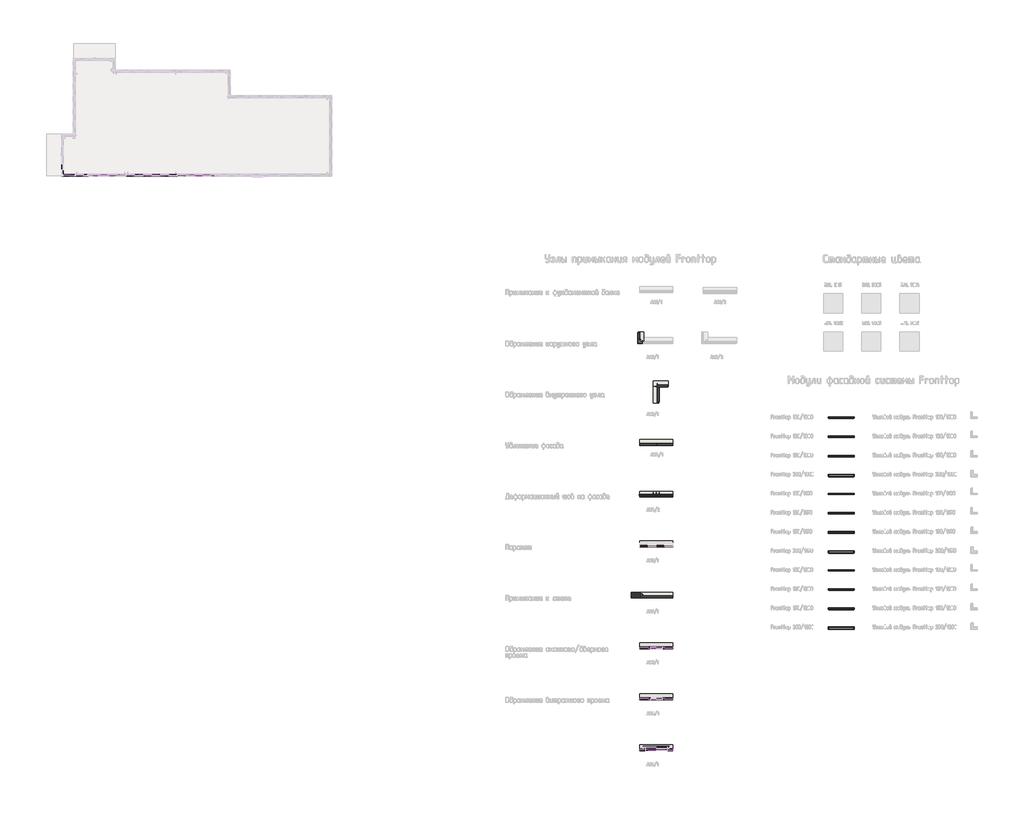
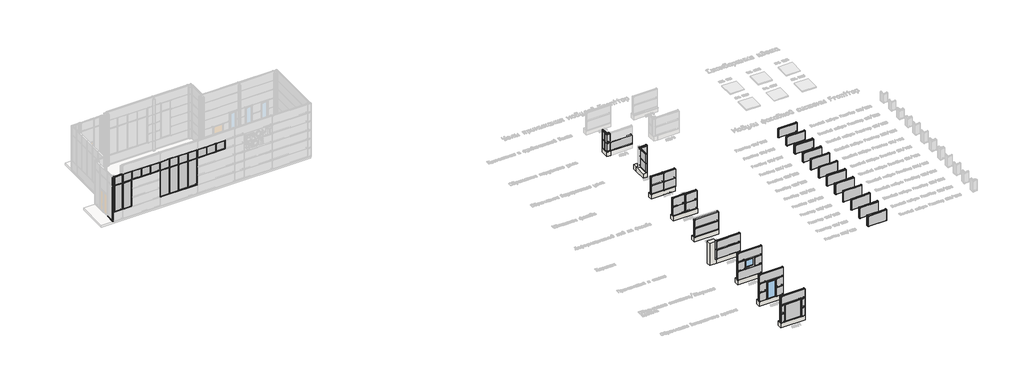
# One storey, part 1 of 37: 66 plates, 60 members, 12 walls, 2 windows.
"""IFC4 building model written with IfcOpenShell, lengths in millimetres."""

from ifc_helpers import new_model, si_unit, frame, origin, origin_with_axes, place, context, project, spatial, polyline, outline, extrude, faceted_brep, transform, mapped, element, save
from components import member_2e505431, member_19b48848, member_60ea8178, member_afb0b622, member_c640f651, member_1467ba8b, member_0bcd7f07, member_8788ed63, member_b6a986cb, member_9443a213, member_779ca808, member_ded9e280, member_bca74f28, member_2f80f005, member_458d3598, member_60e476da, plate_00605f7b, plate_8c76a23d, plate_b4692fb1, plate_fdef5a31, plate_b143e3d3, plate_4cc33baf, plate_adcc6613, plate_925b3bca, plate_a005b7e8, plate_e3ef1461, plate_74780102, plate_292bbd3f, plate_7855ccda, plate_8fcb3820, plate_eae69fd8, plate_19c01b39, plate_a95caa87, plate_48909ca9, plate_139f4f7c, plate_2fa59fed, plate_190e3803, plate_d80518ba, plate_c80f8a6c, plate_abd0d1aa, plate_e143cc12, plate_79874e8c, plate_6d30afa2, plate_62cb37a9, plate_d0c9d429, plate_90e80e06, plate_bd2da7d9, plate_29757197, plate_c9485209, plate_f993ad24, plate_2dff6574, plate_69a0faa1, plate_1ac65dce, window_734b0359, window_32849c04

model = new_model("IFC4")

# Units and contexts
model_context = context("Model", 3, world=origin())
ifc_project = project(units=[si_unit("LENGTHUNIT", "METRE", prefix="MILLI")], contexts=[model_context])

# Site, building, storey
site = spatial("IfcSite", under=ifc_project)
building = spatial("IfcBuilding", under=site)
storey = spatial("IfcBuildingStorey", under=building, Name="Этаж 01", Elevation=0.0)

# Members
placement = place(None, origin())
member_shape = member_2e505431(model_context)
element("IfcMember", 1, ObjectType="Прямоугольный импост : 50х100", at=placement, inside=storey, context=model_context, shape_type="MappedRepresentation", body=[
    mapped(member_shape, transform((9500.0, -100.0, 5025.0), x_axis=(0.0, 0.0, 1.0), y_axis=(0.0, 1.0, 0.0), z_axis=(-1.0, 0.0, 0.0))),
])
element("IfcMember", 2, ObjectType="Прямоугольный импост : 50х100", at=placement, inside=storey, context=model_context, shape_type="MappedRepresentation", body=[
    mapped(member_shape, transform((5500.0, -100.0, 5025.0), x_axis=(0.0, 0.0, 1.0), y_axis=(0.0, 1.0, 0.0), z_axis=(-1.0, 0.0, 0.0))),
])
element("IfcMember", 3, ObjectType="Прямоугольный импост : 50х100", at=placement, inside=storey, context=model_context, shape_type="MappedRepresentation", body=[
    mapped(member_shape, transform((1500.0, -100.0, 5025.0), x_axis=(0.0, 0.0, 1.0), y_axis=(0.0, 1.0, 0.0), z_axis=(-1.0, 0.0, 0.0))),
])
element("IfcMember", 4, ObjectType="Прямоугольный импост : 50х100", at=placement, inside=storey, context=model_context, shape_type="MappedRepresentation", body=[
    mapped(member_shape, transform((10500.0, -100.0, 4025.0), x_axis=(0.0, 0.0, -1.0), y_axis=(0.0, 1.0, 0.0), z_axis=(1.0, 0.0, 0.0))),
])
element("IfcMember", 5, ObjectType="Прямоугольный импост : 50х100", at=placement, inside=storey, context=model_context, shape_type="MappedRepresentation", body=[
    mapped(member_shape, transform((6500.0, -100.0, 1025.0), x_axis=(0.0, 0.0, -1.0), y_axis=(0.0, 1.0, 0.0), z_axis=(1.0, 0.0, 0.0))),
])
element("IfcMember", 6, ObjectType="Прямоугольный импост : 50х100", at=placement, inside=storey, context=model_context, shape_type="MappedRepresentation", body=[
    mapped(member_shape, transform((2500.0, -100.0, 4025.0), x_axis=(0.0, 0.0, -1.0), y_axis=(0.0, 1.0, 0.0), z_axis=(1.0, 0.0, 0.0))),
])
member_2_shape = member_19b48848(model_context)
element("IfcMember", 7, ObjectType="Прямоугольный импост : 50х100", at=placement, inside=storey, context=model_context, shape_type="MappedRepresentation", body=[
    mapped(member_2_shape, transform((5500.0, -100.0, 4025.0), x_axis=(-1.0, 0.0, 0.0), y_axis=(0.0, 1.0, 0.0), z_axis=(0.0, 0.0, -1.0))),
])
element("IfcMember", 8, ObjectType="Прямоугольный импост : 50х100", at=placement, inside=storey, context=model_context, shape_type="MappedRepresentation", body=[
    mapped(member_2_shape, transform((9500.0, -100.0, 4975.0), x_axis=(1.0, 0.0, 0.0), y_axis=(0.0, 1.0, 0.0), z_axis=(0.0, 0.0, 1.0))),
])
element("IfcMember", 9, ObjectType="Прямоугольный импост : 50х100", at=placement, inside=storey, context=model_context, shape_type="MappedRepresentation", body=[
    mapped(member_2_shape, transform((490.0, -150.0, 4975.0), x_axis=(0.0, -1.0, 0.0), y_axis=(1.0, 0.0, 0.0), z_axis=(0.0, 0.0, 1.0))),
])
element("IfcMember", 10, ObjectType="Прямоугольный импост : 50х100", at=placement, inside=storey, context=model_context, shape_type="MappedRepresentation", body=[
    mapped(member_2_shape, transform((1500.0, -100.0, 4975.0), x_axis=(1.0, 0.0, 0.0), y_axis=(0.0, 1.0, 0.0), z_axis=(0.0, 0.0, 1.0))),
])
member_3_shape = member_60ea8178(model_context)
element("IfcMember", 11, ObjectType="Прямоугольный импост : 50х100", at=placement, inside=storey, context=model_context, shape_type="MappedRepresentation", body=[
    mapped(member_3_shape, transform((590.0, -100.0, 4025.0), x_axis=(0.0, 0.0, 1.0), y_axis=(0.0, 1.0, 0.0), z_axis=(-1.0, 0.0, 0.0))),
])
member_4_shape = member_afb0b622(model_context)
element("IfcMember", 12, ObjectType="Прямоугольный импост : 50х100", at=placement, inside=storey, context=model_context, shape_type="MappedRepresentation", body=[
    mapped(member_4_shape, transform((1550.0, -100.0, 4025.0), x_axis=(0.0, 0.0, 1.0), y_axis=(0.0, 1.0, 0.0), z_axis=(-1.0, 0.0, 0.0))),
])
member_5_shape = member_c640f651(model_context)
element("IfcMember", 13, ObjectType="Прямоугольный импост : 50х100", at=placement, inside=storey, context=model_context, shape_type="MappedRepresentation", body=[
    mapped(member_5_shape, transform((11500.0, -100.0, 4075.0), x_axis=(-1.0, 0.0, 0.0), y_axis=(0.0, 1.0, 0.0), z_axis=(0.0, 0.0, -1.0))),
])
element("IfcMember", 14, ObjectType="Прямоугольный импост : 50х100", at=placement, inside=storey, context=model_context, shape_type="MappedRepresentation", body=[
    mapped(member_5_shape, transform((10500.0, -100.0, 4075.0), x_axis=(-1.0, 0.0, 0.0), y_axis=(0.0, 1.0, 0.0), z_axis=(0.0, 0.0, -1.0))),
])
element("IfcMember", 15, ObjectType="Прямоугольный импост : 50х100", at=placement, inside=storey, context=model_context, shape_type="MappedRepresentation", body=[
    mapped(member_5_shape, transform((4500.0, -100.0, 4075.0), x_axis=(-1.0, 0.0, 0.0), y_axis=(0.0, 1.0, 0.0), z_axis=(0.0, 0.0, -1.0))),
])
element("IfcMember", 16, ObjectType="Прямоугольный импост : 50х100", at=placement, inside=storey, context=model_context, shape_type="MappedRepresentation", body=[
    mapped(member_5_shape, transform((3500.0, -100.0, 4075.0), x_axis=(-1.0, 0.0, 0.0), y_axis=(0.0, 1.0, 0.0), z_axis=(0.0, 0.0, -1.0))),
])
element("IfcMember", 17, ObjectType="Прямоугольный импост : 50х100", at=placement, inside=storey, context=model_context, shape_type="MappedRepresentation", body=[
    mapped(member_5_shape, transform((2500.0, -100.0, 4075.0), x_axis=(-1.0, 0.0, 0.0), y_axis=(0.0, 1.0, 0.0), z_axis=(0.0, 0.0, -1.0))),
])
member_6_shape = member_1467ba8b(model_context)
element("IfcMember", 18, ObjectType="Прямоугольный импост : 50х100", at=placement, inside=storey, context=model_context, shape_type="MappedRepresentation", body=[
    mapped(member_6_shape, transform((11500.0, -100.0, 4025.0), x_axis=(0.0, 0.0, -1.0), y_axis=(0.0, 1.0, 0.0), z_axis=(1.0, 0.0, 0.0))),
])
element("IfcMember", 19, ObjectType="Прямоугольный импост : 50х100", at=placement, inside=storey, context=model_context, shape_type="MappedRepresentation", body=[
    mapped(member_6_shape, transform((8500.0, -100.0, 1025.0), x_axis=(0.0, 0.0, -1.0), y_axis=(0.0, 1.0, 0.0), z_axis=(1.0, 0.0, 0.0))),
])
element("IfcMember", 20, ObjectType="Прямоугольный импост : 50х100", at=placement, inside=storey, context=model_context, shape_type="MappedRepresentation", body=[
    mapped(member_6_shape, transform((7500.0, -100.0, 1025.0), x_axis=(0.0, 0.0, -1.0), y_axis=(0.0, 1.0, 0.0), z_axis=(1.0, 0.0, 0.0))),
])
element("IfcMember", 21, ObjectType="Прямоугольный импост : 50х100", at=placement, inside=storey, context=model_context, shape_type="MappedRepresentation", body=[
    mapped(member_6_shape, transform((4500.0, -100.0, 4025.0), x_axis=(0.0, 0.0, -1.0), y_axis=(0.0, 1.0, 0.0), z_axis=(1.0, 0.0, 0.0))),
])
element("IfcMember", 22, ObjectType="Прямоугольный импост : 50х100", at=placement, inside=storey, context=model_context, shape_type="MappedRepresentation", body=[
    mapped(member_6_shape, transform((3500.0, -100.0, 4025.0), x_axis=(0.0, 0.0, -1.0), y_axis=(0.0, 1.0, 0.0), z_axis=(1.0, 0.0, 0.0))),
])
element("IfcMember", 23, ObjectType="Прямоугольный импост : 50х100", at=placement, inside=storey, context=model_context, shape_type="MappedRepresentation", body=[
    mapped(member_6_shape, transform((10500.0, -100.0, 5025.0), x_axis=(0.0, 0.0, 1.0), y_axis=(0.0, 1.0, 0.0), z_axis=(-1.0, 0.0, 0.0))),
])
element("IfcMember", 24, ObjectType="Прямоугольный импост : 50х100", at=placement, inside=storey, context=model_context, shape_type="MappedRepresentation", body=[
    mapped(member_6_shape, transform((7500.0, -100.0, 5025.0), x_axis=(0.0, 0.0, 1.0), y_axis=(0.0, 1.0, 0.0), z_axis=(-1.0, 0.0, 0.0))),
])
element("IfcMember", 25, ObjectType="Прямоугольный импост : 50х100", at=placement, inside=storey, context=model_context, shape_type="MappedRepresentation", body=[
    mapped(member_6_shape, transform((6500.0, -100.0, 5025.0), x_axis=(0.0, 0.0, 1.0), y_axis=(0.0, 1.0, 0.0), z_axis=(-1.0, 0.0, 0.0))),
])
element("IfcMember", 26, ObjectType="Прямоугольный импост : 50х100", at=placement, inside=storey, context=model_context, shape_type="MappedRepresentation", body=[
    mapped(member_6_shape, transform((3500.0, -100.0, 5025.0), x_axis=(0.0, 0.0, 1.0), y_axis=(0.0, 1.0, 0.0), z_axis=(-1.0, 0.0, 0.0))),
])
element("IfcMember", 27, ObjectType="Прямоугольный импост : 50х100", at=placement, inside=storey, context=model_context, shape_type="MappedRepresentation", body=[
    mapped(member_6_shape, transform((2500.0, -100.0, 5025.0), x_axis=(0.0, 0.0, 1.0), y_axis=(0.0, 1.0, 0.0), z_axis=(-1.0, 0.0, 0.0))),
])
element("IfcMember", 28, ObjectType="Прямоугольный импост : 50х100", at=placement, inside=storey, context=model_context, shape_type="MappedRepresentation", body=[
    mapped(member_4_shape, transform((9500.0, -100.0, 4075.0), x_axis=(-1.0, 0.0, 0.0), y_axis=(0.0, 1.0, 0.0), z_axis=(0.0, 0.0, -1.0))),
])
element("IfcMember", 29, ObjectType="Прямоугольный импост : 50х100", at=placement, inside=storey, context=model_context, shape_type="MappedRepresentation", body=[
    mapped(member_4_shape, transform((1500.0, -100.0, 4075.0), x_axis=(-1.0, 0.0, 0.0), y_axis=(0.0, 1.0, 0.0), z_axis=(0.0, 0.0, -1.0))),
])
element("IfcMember", 30, ObjectType="Прямоугольный импост : 50х100", at=placement, inside=storey, context=model_context, shape_type="MappedRepresentation", body=[
    mapped(member_4_shape, transform((12500.0, -100.0, 4975.0), x_axis=(1.0, 0.0, 0.0), y_axis=(0.0, 1.0, 0.0), z_axis=(0.0, 0.0, 1.0))),
])
element("IfcMember", 31, ObjectType="Прямоугольный импост : 50х100", at=placement, inside=storey, context=model_context, shape_type="MappedRepresentation", body=[
    mapped(member_4_shape, transform((5500.0, -100.0, 4975.0), x_axis=(1.0, 0.0, 0.0), y_axis=(0.0, 1.0, 0.0), z_axis=(0.0, 0.0, 1.0))),
])
member_7_shape = member_0bcd7f07(model_context)
element("IfcMember", 32, ObjectType="Прямоугольный импост : 50х100", at=placement, inside=storey, context=model_context, shape_type="MappedRepresentation", body=[
    mapped(member_7_shape, transform((5500.0, -100.0, 1075.0), x_axis=(-1.0, 0.0, 0.0), y_axis=(0.0, 1.0, 0.0), z_axis=(0.0, 0.0, -1.0))),
])
element("IfcMember", 33, ObjectType="Прямоугольный импост : 50х100", at=placement, inside=storey, context=model_context, shape_type="MappedRepresentation", body=[
    mapped(member_7_shape, transform((540.0, -100.0, 1075.0), x_axis=(-1.0, 0.0, 0.0), y_axis=(0.0, 1.0, 0.0), z_axis=(0.0, 0.0, -1.0))),
])
element("IfcMember", 34, ObjectType="Прямоугольный импост : 50х100", at=placement, inside=storey, context=model_context, shape_type="MappedRepresentation", body=[
    mapped(member_7_shape, transform((9500.0, -100.0, 4025.0), x_axis=(1.0, 0.0, 0.0), y_axis=(0.0, 1.0, 0.0), z_axis=(0.0, 0.0, 1.0))),
])
element("IfcMember", 35, ObjectType="Прямоугольный импост : 50х100", at=placement, inside=storey, context=model_context, shape_type="MappedRepresentation", body=[
    mapped(member_4_shape, transform((490.0, -100.0, 25.0), x_axis=(0.0, 0.0, -1.0), y_axis=(1.0, 0.0, 0.0), z_axis=(0.0, -1.0, 0.0))),
])
member_8_shape = member_8788ed63(model_context)
element("IfcMember", 36, ObjectType="Прямоугольный импост : 50х100", at=placement, inside=storey, context=model_context, shape_type="MappedRepresentation", body=[
    mapped(member_8_shape, transform((590.0, -100.0, 5025.0), x_axis=(0.0, 0.0, 1.0), y_axis=(0.0, 1.0, 0.0), z_axis=(-1.0, 0.0, 0.0))),
])
element("IfcMember", 37, ObjectType="Прямоугольный импост : 50х100", at=placement, inside=storey, context=model_context, shape_type="MappedRepresentation", body=[
    mapped(member_8_shape, transform((1450.0, -100.0, 1025.0), x_axis=(0.0, 0.0, -1.0), y_axis=(0.0, 1.0, 0.0), z_axis=(1.0, 0.0, 0.0))),
])
element("IfcMember", 38, ObjectType="Прямоугольный импост : 50х100", at=placement, inside=storey, context=model_context, shape_type="MappedRepresentation", body=[
    mapped(member_6_shape, transform((540.0, -100.0, 4025.0), x_axis=(-1.0, 0.0, 0.0), y_axis=(0.0, 1.0, 0.0), z_axis=(0.0, 0.0, -1.0))),
])
member_9_shape = member_b6a986cb(model_context)
element("IfcMember", 39, ObjectType="Прямоугольный импост : 50х100", at=placement, inside=storey, context=model_context, shape_type="MappedRepresentation", body=[
    mapped(member_9_shape, transform((1500.0, -100.0, 4025.0), x_axis=(1.0, 0.0, 0.0), y_axis=(0.0, 1.0, 0.0), z_axis=(0.0, 0.0, 1.0))),
])
member_10_shape = member_9443a213(model_context)
element("IfcMember", 40, ObjectType="Прямоугольный импост : 50х100", at=placement, inside=storey, context=model_context, shape_type="MappedRepresentation", body=[
    mapped(member_10_shape, transform((490.0, -150.0, 4025.0), x_axis=(0.0, -1.0, 0.0), y_axis=(1.0, 0.0, 0.0), z_axis=(0.0, 0.0, 1.0))),
])
member_11_shape = member_779ca808(model_context)
element("IfcMember", 41, ObjectType="Прямоугольный импост : 50х100", at=placement, inside=storey, context=model_context, shape_type="MappedRepresentation", body=[
    mapped(member_11_shape, transform((490.0, -150.0, 2425.0), x_axis=(0.0, -1.0, 0.0), y_axis=(1.0, 0.0, 0.0), z_axis=(0.0, 0.0, 1.0))),
])
element("IfcMember", 42, ObjectType="Прямоугольный импост : 50х100", at=placement, inside=storey, context=model_context, shape_type="MappedRepresentation", body=[
    mapped(member_4_shape, transform((2450.0, -100.0, 1025.0), x_axis=(0.0, 0.0, -1.0), y_axis=(0.0, 1.0, 0.0), z_axis=(1.0, 0.0, 0.0))),
])
element("IfcMember", 43, ObjectType="Прямоугольный импост : 50х100", at=placement, inside=storey, context=model_context, shape_type="MappedRepresentation", body=[
    mapped(member_9_shape, transform((1500.0, -100.0, 1025.0), x_axis=(-1.0, 0.0, 0.0), y_axis=(0.0, 1.0, 0.0), z_axis=(0.0, 0.0, -1.0))),
])
element("IfcMember", 44, ObjectType="Прямоугольный импост : 50х100", at=placement, inside=storey, context=model_context, shape_type="MappedRepresentation", body=[
    mapped(member_9_shape, transform((2500.0, -100.0, 4025.0), x_axis=(1.0, 0.0, 0.0), y_axis=(0.0, 1.0, 0.0), z_axis=(0.0, 0.0, 1.0))),
])
member_12_shape = member_ded9e280(model_context)
element("IfcMember", 45, ObjectType="Прямоугольный импост : 50х100", at=placement, inside=storey, context=model_context, shape_type="MappedRepresentation", body=[
    mapped(member_12_shape, transform((8500.0, -100.0, 4025.0), x_axis=(0.0, 0.0, 1.0), y_axis=(0.0, 1.0, 0.0), z_axis=(-1.0, 0.0, 0.0))),
])
member_13_shape = member_bca74f28(model_context)
element("IfcMember", 46, ObjectType="Прямоугольный импост : 50х100", at=placement, inside=storey, context=model_context, shape_type="MappedRepresentation", body=[
    mapped(member_13_shape, transform((7500.0, -100.0, 4025.0), x_axis=(0.0, 0.0, 1.0), y_axis=(0.0, 1.0, 0.0), z_axis=(-1.0, 0.0, 0.0))),
])
element("IfcMember", 47, ObjectType="Прямоугольный импост : 50х100", at=placement, inside=storey, context=model_context, shape_type="MappedRepresentation", body=[
    mapped(member_13_shape, transform((6500.0, -100.0, 4025.0), x_axis=(0.0, 0.0, 1.0), y_axis=(0.0, 1.0, 0.0), z_axis=(-1.0, 0.0, 0.0))),
])
member_14_shape = member_2f80f005(model_context)
element("IfcMember", 48, ObjectType="Прямоугольный импост : 50х100", at=placement, inside=storey, context=model_context, shape_type="MappedRepresentation", body=[
    mapped(member_14_shape, transform((8500.0, -100.0, 1075.0), x_axis=(-1.0, 0.0, 0.0), y_axis=(0.0, 1.0, 0.0), z_axis=(0.0, 0.0, -1.0))),
])
element("IfcMember", 49, ObjectType="Прямоугольный импост : 50х100", at=placement, inside=storey, context=model_context, shape_type="MappedRepresentation", body=[
    mapped(member_14_shape, transform((7500.0, -100.0, 1075.0), x_axis=(-1.0, 0.0, 0.0), y_axis=(0.0, 1.0, 0.0), z_axis=(0.0, 0.0, -1.0))),
])
element("IfcMember", 50, ObjectType="Прямоугольный импост : 50х100", at=placement, inside=storey, context=model_context, shape_type="MappedRepresentation", body=[
    mapped(member_14_shape, transform((6500.0, -100.0, 1075.0), x_axis=(-1.0, 0.0, 0.0), y_axis=(0.0, 1.0, 0.0), z_axis=(0.0, 0.0, -1.0))),
])
member_15_shape = member_458d3598(model_context)
element("IfcMember", 51, ObjectType="Прямоугольный импост : 50х100", at=placement, inside=storey, context=model_context, shape_type="MappedRepresentation", body=[
    mapped(member_15_shape, transform((8500.0, -100.0, 4050.0), x_axis=(-1.0, 0.0, 0.0), y_axis=(0.0, 1.0, 0.0), z_axis=(0.0, 0.0, -1.0))),
])
element("IfcMember", 52, ObjectType="Прямоугольный импост : 50х100", at=placement, inside=storey, context=model_context, shape_type="MappedRepresentation", body=[
    mapped(member_15_shape, transform((7500.0, -100.0, 4050.0), x_axis=(-1.0, 0.0, 0.0), y_axis=(0.0, 1.0, 0.0), z_axis=(0.0, 0.0, -1.0))),
])
element("IfcMember", 53, ObjectType="Прямоугольный импост : 50х100", at=placement, inside=storey, context=model_context, shape_type="MappedRepresentation", body=[
    mapped(member_15_shape, transform((6500.0, -100.0, 4050.0), x_axis=(-1.0, 0.0, 0.0), y_axis=(0.0, 1.0, 0.0), z_axis=(0.0, 0.0, -1.0))),
])
element("IfcMember", 54, ObjectType="Прямоугольный импост : 50х100", at=placement, inside=storey, context=model_context, shape_type="MappedRepresentation", body=[
    mapped(member_12_shape, transform((5550.0, -100.0, 4025.0), x_axis=(0.0, 0.0, 1.0), y_axis=(0.0, 1.0, 0.0), z_axis=(-1.0, 0.0, 0.0))),
])
member_16_shape = member_60e476da(model_context)
element("IfcMember", 55, ObjectType="Прямоугольный импост : 50х100", at=placement, inside=storey, context=model_context, shape_type="MappedRepresentation", body=[
    mapped(member_16_shape, transform((11500.0, -100.0, 5025.0), x_axis=(0.0, 0.0, 1.0), y_axis=(0.0, 1.0, 0.0), z_axis=(-1.0, 0.0, 0.0))),
])
element("IfcMember", 56, ObjectType="Прямоугольный импост : 50х100", at=placement, inside=storey, context=model_context, shape_type="MappedRepresentation", body=[
    mapped(member_16_shape, transform((8500.0, -100.0, 5025.0), x_axis=(0.0, 0.0, 1.0), y_axis=(0.0, 1.0, 0.0), z_axis=(-1.0, 0.0, 0.0))),
])
element("IfcMember", 57, ObjectType="Прямоугольный импост : 50х100", at=placement, inside=storey, context=model_context, shape_type="MappedRepresentation", body=[
    mapped(member_16_shape, transform((4500.0, -100.0, 5025.0), x_axis=(0.0, 0.0, 1.0), y_axis=(0.0, 1.0, 0.0), z_axis=(-1.0, 0.0, 0.0))),
])
element("IfcMember", 58, ObjectType="Прямоугольный импост : 50х100", at=placement, inside=storey, context=model_context, shape_type="MappedRepresentation", body=[
    mapped(member_16_shape, transform((12500.0, -100.0, 4025.0), x_axis=(0.0, 0.0, -1.0), y_axis=(0.0, 1.0, 0.0), z_axis=(1.0, 0.0, 0.0))),
])
element("IfcMember", 59, ObjectType="Прямоугольный импост : 50х100", at=placement, inside=storey, context=model_context, shape_type="MappedRepresentation", body=[
    mapped(member_16_shape, transform((9500.0, -100.0, 1025.0), x_axis=(0.0, 0.0, -1.0), y_axis=(0.0, 1.0, 0.0), z_axis=(1.0, 0.0, 0.0))),
])
element("IfcMember", 60, ObjectType="Прямоугольный импост : 50х100", at=placement, inside=storey, context=model_context, shape_type="MappedRepresentation", body=[
    mapped(member_16_shape, transform((5500.0, -100.0, 4025.0), x_axis=(0.0, 0.0, -1.0), y_axis=(0.0, 1.0, 0.0), z_axis=(1.0, 0.0, 0.0))),
])

# Plates
plate_shape = plate_00605f7b(model_context)
element("IfcPlate", 61, ObjectType="Системная панель : ADSK_Cтеклопакет_25", at=placement, inside=storey, context=model_context, shape_type="MappedRepresentation", body=[
    mapped(plate_shape, transform((8987.5, -100.0, 4050.0), x_axis=(-1.0, 0.0, 0.0), y_axis=(0.0, -1.0, 0.0), z_axis=(0.0, 0.0, 1.0))),
])
element("IfcPlate", 62, ObjectType="Системная панель : ADSK_Cтеклопакет_25", at=placement, inside=storey, context=model_context, shape_type="MappedRepresentation", body=[
    mapped(plate_shape, transform((6012.5, -100.0, 4050.0), x_axis=(-1.0, 0.0, 0.0), y_axis=(0.0, -1.0, 0.0), z_axis=(0.0, 0.0, 1.0))),
])
plate_2_shape = plate_8c76a23d(model_context)
element("IfcPlate", 63, ObjectType="Системная панель : ADSK_Cтеклопакет_25", at=placement, inside=storey, context=model_context, shape_type="MappedRepresentation", body=[
    mapped(plate_2_shape, transform((8987.5, -100.0, 1075.0), x_axis=(-1.0, 0.0, 0.0), y_axis=(0.0, -1.0, 0.0), z_axis=(0.0, 0.0, 1.0))),
])
element("IfcPlate", 64, ObjectType="Системная панель : ADSK_Cтеклопакет_25", at=placement, inside=storey, context=model_context, shape_type="MappedRepresentation", body=[
    mapped(plate_2_shape, transform((6012.5, -100.0, 1075.0), x_axis=(-1.0, 0.0, 0.0), y_axis=(0.0, -1.0, 0.0), z_axis=(0.0, 0.0, 1.0))),
])
plate_3_shape = plate_b4692fb1(model_context)
element("IfcPlate", 65, ObjectType="Системная панель : ADSK_Cтеклопакет_25", at=placement, inside=storey, context=model_context, shape_type="MappedRepresentation", body=[
    mapped(plate_3_shape, transform((11987.5, -100.0, 4075.0), x_axis=(-1.0, 0.0, 0.0), y_axis=(0.0, -1.0, 0.0), z_axis=(0.0, 0.0, 1.0))),
])
element("IfcPlate", 66, ObjectType="Системная панель : ADSK_Cтеклопакет_25", at=placement, inside=storey, context=model_context, shape_type="MappedRepresentation", body=[
    mapped(plate_3_shape, transform((4987.5, -100.0, 4075.0), x_axis=(-1.0, 0.0, 0.0), y_axis=(0.0, -1.0, 0.0), z_axis=(0.0, 0.0, 1.0))),
])
element("IfcPlate", 67, ObjectType="Системная панель : ADSK_Cтеклопакет_25", at=placement, inside=storey, context=model_context, shape_type="MappedRepresentation", body=[
    mapped(plate_3_shape, transform((10012.5, -100.0, 4075.0), x_axis=(-1.0, 0.0, 0.0), y_axis=(0.0, -1.0, 0.0), z_axis=(0.0, 0.0, 1.0))),
])
element("IfcPlate", 68, ObjectType="Системная панель : ADSK_Cтеклопакет_25", at=placement, inside=storey, context=model_context, shape_type="MappedRepresentation", body=[
    mapped(plate_3_shape, transform((2012.5, -100.0, 4075.0), x_axis=(-1.0, 0.0, 0.0), y_axis=(0.0, -1.0, 0.0), z_axis=(0.0, 0.0, 1.0))),
])
plate_4_shape = plate_fdef5a31(model_context)
element("IfcPlate", 69, ObjectType="Системная панель : ADSK_Cтеклопакет_25", at=placement, inside=storey, context=model_context, shape_type="MappedRepresentation", body=[
    mapped(plate_4_shape, transform((11000.0, -100.0, 4075.0), x_axis=(-1.0, 0.0, 0.0), y_axis=(0.0, -1.0, 0.0), z_axis=(0.0, 0.0, 1.0))),
])
element("IfcPlate", 70, ObjectType="Системная панель : ADSK_Cтеклопакет_25", at=placement, inside=storey, context=model_context, shape_type="MappedRepresentation", body=[
    mapped(plate_4_shape, transform((4000.0, -100.0, 4075.0), x_axis=(-1.0, 0.0, 0.0), y_axis=(0.0, -1.0, 0.0), z_axis=(0.0, 0.0, 1.0))),
])
element("IfcPlate", 71, ObjectType="Системная панель : ADSK_Cтеклопакет_25", at=placement, inside=storey, context=model_context, shape_type="MappedRepresentation", body=[
    mapped(plate_4_shape, transform((3000.0, -100.0, 4075.0), x_axis=(-1.0, 0.0, 0.0), y_axis=(0.0, -1.0, 0.0), z_axis=(0.0, 0.0, 1.0))),
])
plate_5_shape = plate_b143e3d3(model_context)
element("IfcPlate", 72, ObjectType="Системная панель : ADSK_Cтеклопакет_25", at=placement, inside=storey, context=model_context, shape_type="MappedRepresentation", body=[
    mapped(plate_5_shape, transform((8000.0, -100.0, 1075.0), x_axis=(-1.0, 0.0, 0.0), y_axis=(0.0, -1.0, 0.0), z_axis=(0.0, 0.0, 1.0))),
])
element("IfcPlate", 73, ObjectType="Системная панель : ADSK_Cтеклопакет_25", at=placement, inside=storey, context=model_context, shape_type="MappedRepresentation", body=[
    mapped(plate_5_shape, transform((7000.0, -100.0, 1075.0), x_axis=(-1.0, 0.0, 0.0), y_axis=(0.0, -1.0, 0.0), z_axis=(0.0, 0.0, 1.0))),
])
plate_6_shape = plate_4cc33baf(model_context)
element("IfcPlate", 74, ObjectType="Системная панель : ADSK_Cтеклопакет_25", at=placement, inside=storey, context=model_context, shape_type="MappedRepresentation", body=[
    mapped(plate_6_shape, transform((8000.0, -100.0, 4050.0), x_axis=(-1.0, 0.0, 0.0), y_axis=(0.0, -1.0, 0.0), z_axis=(0.0, 0.0, 1.0))),
])
element("IfcPlate", 75, ObjectType="Системная панель : ADSK_Cтеклопакет_25", at=placement, inside=storey, context=model_context, shape_type="MappedRepresentation", body=[
    mapped(plate_6_shape, transform((7000.0, -100.0, 4050.0), x_axis=(-1.0, 0.0, 0.0), y_axis=(0.0, -1.0, 0.0), z_axis=(0.0, 0.0, 1.0))),
])
plate_7_shape = plate_adcc6613(model_context)
element("IfcPlate", 76, ObjectType="Системная панель : ADSK_Cтеклопакет_25", at=placement, inside=storey, context=model_context, shape_type="MappedRepresentation", body=[
    mapped(plate_7_shape, transform((1020.0, -100.0, 1075.0), x_axis=(-1.0, 0.0, 0.0), y_axis=(0.0, -1.0, 0.0), z_axis=(0.0, 0.0, 1.0))),
])
plate_8_shape = plate_925b3bca(model_context)
element("IfcPlate", 77, ObjectType="Системная панель : ADSK_Cтеклопакет_25", at=placement, inside=storey, context=model_context, shape_type="MappedRepresentation", body=[
    mapped(plate_8_shape, transform((2000.0, -100.0, 1075.0), x_axis=(-1.0, 0.0, 0.0), y_axis=(0.0, -1.0, 0.0), z_axis=(0.0, 0.0, 1.0))),
])
plate_9_shape = plate_a005b7e8(model_context)
element("IfcPlate", 78, ObjectType="Системная панель : ADSK_Cтеклопакет_25", at=placement, inside=storey, context=model_context, shape_type="MappedRepresentation", body=[
    mapped(plate_9_shape, transform((1020.0, -100.0, 4050.0), x_axis=(-1.0, 0.0, 0.0), y_axis=(0.0, -1.0, 0.0), z_axis=(0.0, 0.0, 1.0))),
])
plate_10_shape = plate_e3ef1461(model_context)
element("IfcPlate", 79, ObjectType="Пустая системная панель : Пустая системная панель", at=placement, inside=storey, context=model_context, shape_type="MappedRepresentation", body=[
    mapped(plate_10_shape, transform((47123.7069431, -45160.1316508, 25.0), x_axis=(-1.0, 0.0, 0.0), y_axis=(0.0, -1.0, 0.0), z_axis=(0.0, 0.0, 1.0))),
])
plate_11_shape = plate_74780102(model_context)
element("IfcPlate", 80, ObjectType="Fronttop : Fronttop 150/1000", at=placement, inside=storey, context=model_context, shape_type="MappedRepresentation", body=[
    mapped(plate_11_shape, transform((47123.7069431, -29160.1316508, 25.0), x_axis=(-1.0, 0.0, 0.0), y_axis=(0.0, -1.0, 0.0), z_axis=(0.0, 0.0, 1.0))),
])
element("IfcPlate", 81, ObjectType="Fronttop : Fronttop 150/1000", at=placement, inside=storey, context=model_context, shape_type="MappedRepresentation", body=[
    mapped(plate_11_shape, transform((47123.7069431, -29160.1316508, 1025.0), x_axis=(-1.0, 0.0, 0.0), y_axis=(0.0, -1.0, 0.0), z_axis=(0.0, 0.0, 1.0))),
])
plate_12_shape = plate_292bbd3f(model_context)
element("IfcPlate", 82, ObjectType="Fronttop : Fronttop 150/1000", at=placement, inside=storey, context=model_context, shape_type="MappedRepresentation", body=[
    mapped(plate_12_shape, transform((46443.8164092, -25160.1316508, 48.0), x_axis=(-1.0, 0.0, 0.0), y_axis=(0.0, -1.0, 0.0), z_axis=(0.0, 0.0, 1.0))),
])
element("IfcPlate", 83, ObjectType="Fronttop : Fronttop 150/1000", at=placement, inside=storey, context=model_context, shape_type="MappedRepresentation", body=[
    mapped(plate_12_shape, transform((46443.8164092, -25160.1316508, 1048.0), x_axis=(-1.0, 0.0, 0.0), y_axis=(0.0, -1.0, 0.0), z_axis=(0.0, 0.0, 1.0))),
])
plate_13_shape = plate_7855ccda(model_context)
element("IfcPlate", 84, ObjectType="Fronttop : Fronttop 150/1000", at=placement, inside=storey, context=model_context, shape_type="MappedRepresentation", body=[
    mapped(plate_13_shape, transform((47791.3164092, -25160.1316508, 48.0), x_axis=(-1.0, 0.0, 0.0), y_axis=(0.0, -1.0, 0.0), z_axis=(0.0, 0.0, 1.0))),
])
element("IfcPlate", 85, ObjectType="Fronttop : Fronttop 150/1000", at=placement, inside=storey, context=model_context, shape_type="MappedRepresentation", body=[
    mapped(plate_13_shape, transform((47791.3164092, -25160.1316508, 1048.0), x_axis=(-1.0, 0.0, 0.0), y_axis=(0.0, -1.0, 0.0), z_axis=(0.0, 0.0, 1.0))),
])
plate_14_shape = plate_8fcb3820(model_context)
element("IfcPlate", 86, ObjectType="Fronttop : Fronttop 150/1000", at=placement, inside=storey, context=model_context, shape_type="MappedRepresentation", body=[
    mapped(plate_14_shape, transform((47141.2069431, -33160.1316508, 25.0), x_axis=(-1.0, 0.0, 0.0), y_axis=(0.0, -1.0, 0.0), z_axis=(0.0, 0.0, 1.0))),
])
element("IfcPlate", 87, ObjectType="Fronttop : Fronttop 150/1000", at=placement, inside=storey, context=model_context, shape_type="MappedRepresentation", body=[
    mapped(plate_14_shape, transform((47141.2069431, -33160.1316508, 1025.0), x_axis=(-1.0, 0.0, 0.0), y_axis=(0.0, -1.0, 0.0), z_axis=(0.0, 0.0, 1.0))),
])
plate_15_shape = plate_eae69fd8(model_context)
element("IfcPlate", 88, ObjectType="Fronttop : Fronttop 150/1000", at=placement, inside=storey, context=model_context, shape_type="MappedRepresentation", body=[
    mapped(plate_15_shape, transform((47185.2069431, -17335.6316508, 25.0), x_axis=(0.0, -1.0, 0.0), y_axis=(1.0, 0.0, 0.0), z_axis=(0.0, 0.0, 1.0))),
])
element("IfcPlate", 89, ObjectType="Fronttop : Fronttop 150/1000", at=placement, inside=storey, context=model_context, shape_type="MappedRepresentation", body=[
    mapped(plate_15_shape, transform((47185.2069431, -17335.6316508, 1025.0), x_axis=(0.0, -1.0, 0.0), y_axis=(1.0, 0.0, 0.0), z_axis=(0.0, 0.0, 1.0))),
])
plate_16_shape = plate_19c01b39(model_context)
element("IfcPlate", 90, ObjectType="Fronttop : Fronttop 150/1000", at=placement, inside=storey, context=model_context, shape_type="MappedRepresentation", body=[
    mapped(plate_16_shape, transform((47615.2069431, -16570.1316508, 25.0), x_axis=(-1.0, 0.0, 0.0), y_axis=(0.0, -1.0, 0.0), z_axis=(0.0, 0.0, 1.0))),
])
element("IfcPlate", 91, ObjectType="Fronttop : Fronttop 150/1000", at=placement, inside=storey, context=model_context, shape_type="MappedRepresentation", body=[
    mapped(plate_16_shape, transform((47615.2069431, -16570.1316508, 1025.0), x_axis=(-1.0, 0.0, 0.0), y_axis=(0.0, -1.0, 0.0), z_axis=(0.0, 0.0, 1.0))),
])
element("IfcPlate", 92, ObjectType="Fronttop : Fronttop 150/1000", at=placement, inside=storey, context=model_context, shape_type="MappedRepresentation", body=[
    mapped(plate_11_shape, transform((47123.7069431, -37160.1316508, 25.0), x_axis=(-1.0, 0.0, 0.0), y_axis=(0.0, -1.0, 0.0), z_axis=(0.0, 0.0, 1.0))),
])
element("IfcPlate", 93, ObjectType="Fronttop : Fronttop 150/1000", at=placement, inside=storey, context=model_context, shape_type="MappedRepresentation", body=[
    mapped(plate_11_shape, transform((47123.7069431, -37160.1316508, 2025.0), x_axis=(-1.0, 0.0, 0.0), y_axis=(0.0, -1.0, 0.0), z_axis=(0.0, 0.0, 1.0))),
])
element("IfcPlate", 94, ObjectType="Fronttop : Fronttop 150/1000", at=placement, inside=storey, context=model_context, shape_type="MappedRepresentation", body=[
    mapped(plate_11_shape, transform((47123.7069431, -41160.1316508, 2025.0), x_axis=(-1.0, 0.0, 0.0), y_axis=(0.0, -1.0, 0.0), z_axis=(0.0, 0.0, 1.0))),
])
plate_17_shape = plate_a95caa87(model_context)
element("IfcPlate", 95, ObjectType="Fronttop : Fronttop 150/1000", at=placement, inside=storey, context=model_context, shape_type="MappedRepresentation", body=[
    mapped(plate_17_shape, transform((48023.7069431, -37160.1316508, 1025.0), x_axis=(-1.0, 0.0, 0.0), y_axis=(0.0, -1.0, 0.0), z_axis=(0.0, 0.0, 1.0))),
])
element("IfcPlate", 96, ObjectType="Fronttop : Fronttop 150/1000", at=placement, inside=storey, context=model_context, shape_type="MappedRepresentation", body=[
    mapped(plate_17_shape, transform((48023.7069431, -41160.1316508, 25.0), x_axis=(-1.0, 0.0, 0.0), y_axis=(0.0, -1.0, 0.0), z_axis=(0.0, 0.0, 1.0))),
])
element("IfcPlate", 97, ObjectType="Fronttop : Fronttop 150/1000", at=placement, inside=storey, context=model_context, shape_type="MappedRepresentation", body=[
    mapped(plate_17_shape, transform((48023.7069431, -41160.1316508, 1025.0), x_axis=(-1.0, 0.0, 0.0), y_axis=(0.0, -1.0, 0.0), z_axis=(0.0, 0.0, 1.0))),
])
plate_18_shape = plate_48909ca9(model_context)
element("IfcPlate", 98, ObjectType="Fronttop : Fronttop 150/1000", at=placement, inside=storey, context=model_context, shape_type="MappedRepresentation", body=[
    mapped(plate_18_shape, transform((46223.7069431, -37160.1316508, 1025.0), x_axis=(-1.0, 0.0, 0.0), y_axis=(0.0, -1.0, 0.0), z_axis=(0.0, 0.0, 1.0))),
])
element("IfcPlate", 99, ObjectType="Fronttop : Fronttop 150/1000", at=placement, inside=storey, context=model_context, shape_type="MappedRepresentation", body=[
    mapped(plate_18_shape, transform((46223.7069431, -41160.1316508, 25.0), x_axis=(-1.0, 0.0, 0.0), y_axis=(0.0, -1.0, 0.0), z_axis=(0.0, 0.0, 1.0))),
])
element("IfcPlate", 100, ObjectType="Fronttop : Fronttop 150/1000", at=placement, inside=storey, context=model_context, shape_type="MappedRepresentation", body=[
    mapped(plate_18_shape, transform((46223.7069431, -41160.1316508, 1025.0), x_axis=(-1.0, 0.0, 0.0), y_axis=(0.0, -1.0, 0.0), z_axis=(0.0, 0.0, 1.0))),
])
plate_19_shape = plate_139f4f7c(model_context)
element("IfcPlate", 101, ObjectType="Fronttop : Fronttop 150/1000", at=placement, inside=storey, context=model_context, shape_type="MappedRepresentation", body=[
    mapped(plate_19_shape, transform((48223.7069431, -45160.1316508, 25.0), x_axis=(-1.0, 0.0, 0.0), y_axis=(0.0, -1.0, 0.0), z_axis=(0.0, 0.0, 1.0))),
])
element("IfcPlate", 102, ObjectType="Fronttop : Fronttop 150/1000", at=placement, inside=storey, context=model_context, shape_type="MappedRepresentation", body=[
    mapped(plate_19_shape, transform((48223.7069431, -45160.1316508, 1025.0), x_axis=(-1.0, 0.0, 0.0), y_axis=(0.0, -1.0, 0.0), z_axis=(0.0, 0.0, 1.0))),
])
element("IfcPlate", 103, ObjectType="Fronttop : Fronttop 150/1000", at=placement, inside=storey, context=model_context, shape_type="MappedRepresentation", body=[
    mapped(plate_11_shape, transform((47123.7069431, -45160.1316508, 2025.0), x_axis=(-1.0, 0.0, 0.0), y_axis=(0.0, -1.0, 0.0), z_axis=(0.0, 0.0, 1.0))),
])
plate_20_shape = plate_2fa59fed(model_context)
element("IfcPlate", 104, ObjectType="Fronttop : Fronttop 150/1000", at=placement, inside=storey, context=model_context, shape_type="MappedRepresentation", body=[
    mapped(plate_20_shape, transform((46023.7069431, -45160.1316508, 25.0), x_axis=(-1.0, 0.0, 0.0), y_axis=(0.0, -1.0, 0.0), z_axis=(0.0, 0.0, 1.0))),
])
element("IfcPlate", 105, ObjectType="Fronttop : Fronttop 150/1000", at=placement, inside=storey, context=model_context, shape_type="MappedRepresentation", body=[
    mapped(plate_20_shape, transform((46023.7069431, -45160.1316508, 1025.0), x_axis=(-1.0, 0.0, 0.0), y_axis=(0.0, -1.0, 0.0), z_axis=(0.0, 0.0, 1.0))),
])
plate_21_shape = plate_190e3803(model_context)
element("IfcPlate", 106, ObjectType="Fronttop : Fronttop 150/1000", at=placement, inside=storey, context=model_context, shape_type="MappedRepresentation", body=[
    mapped(plate_21_shape, transform((47233.7069431, -13160.1316508, 25.0), x_axis=(-1.0, 0.0, 0.0), y_axis=(0.0, -1.0, 0.0), z_axis=(0.0, 0.0, 1.0))),
])
plate_22_shape = plate_d80518ba(model_context)
element("IfcPlate", 107, ObjectType="Fronttop : Fronttop 150/1000", at=placement, inside=storey, context=model_context, shape_type="MappedRepresentation", body=[
    mapped(plate_22_shape, transform((45823.7069431, -12695.1316508, 25.0), x_axis=(0.0, 1.0, 0.0), y_axis=(-1.0, 0.0, 0.0), z_axis=(0.0, 0.0, 1.0))),
])
element("IfcPlate", 108, ObjectType="Fronttop : Fronttop 150/1000", at=placement, inside=storey, context=model_context, shape_type="MappedRepresentation", body=[
    mapped(plate_22_shape, transform((45823.7069431, -12695.1316508, 1025.0), x_axis=(0.0, 1.0, 0.0), y_axis=(-1.0, 0.0, 0.0), z_axis=(0.0, 0.0, 1.0))),
])
plate_23_shape = plate_c80f8a6c(model_context)
element("IfcPlate", 109, ObjectType="Fronttop : Fronttop 150/1000", at=placement, inside=storey, context=model_context, shape_type="MappedRepresentation", body=[
    mapped(plate_23_shape, transform((47773.7069431, -21160.1316508, 25.0), x_axis=(-1.0, 0.0, 0.0), y_axis=(0.0, -1.0, 0.0), z_axis=(0.0, 0.0, 1.0))),
])
element("IfcPlate", 110, ObjectType="Fronttop : Fronttop 150/1000", at=placement, inside=storey, context=model_context, shape_type="MappedRepresentation", body=[
    mapped(plate_23_shape, transform((47773.7069431, -21160.1316508, 1025.0), x_axis=(-1.0, 0.0, 0.0), y_axis=(0.0, -1.0, 0.0), z_axis=(0.0, 0.0, 1.0))),
])
element("IfcPlate", 111, ObjectType="Fronttop : Fronttop 150/1000", at=placement, inside=storey, context=model_context, shape_type="MappedRepresentation", body=[
    mapped(plate_23_shape, transform((46473.7069431, -21160.1316508, 25.0), x_axis=(-1.0, 0.0, 0.0), y_axis=(0.0, -1.0, 0.0), z_axis=(0.0, 0.0, 1.0))),
])
element("IfcPlate", 112, ObjectType="Fronttop : Fronttop 150/1000", at=placement, inside=storey, context=model_context, shape_type="MappedRepresentation", body=[
    mapped(plate_23_shape, transform((46473.7069431, -21160.1316508, 1025.0), x_axis=(-1.0, 0.0, 0.0), y_axis=(0.0, -1.0, 0.0), z_axis=(0.0, 0.0, 1.0))),
])
plate_24_shape = plate_abd0d1aa(model_context)
element("IfcPlate", 113, ObjectType="Fronttop : Fronttop 100/1000", at=placement, inside=storey, context=model_context, shape_type="MappedRepresentation", body=[
    mapped(plate_24_shape, transform((61643.9226305, -19092.0996664, 0.0), x_axis=(1.0, 0.0, 0.0), y_axis=(0.0, 1.0, 0.0), z_axis=(0.0, 0.0, 1.0))),
])
plate_25_shape = plate_e143cc12(model_context)
element("IfcPlate", 114, ObjectType="Fronttop : Fronttop 100/1190", at=placement, inside=storey, context=model_context, shape_type="MappedRepresentation", body=[
    mapped(plate_25_shape, transform((61643.9226305, -25092.0996664, 0.0), x_axis=(1.0, 0.0, 0.0), y_axis=(0.0, 1.0, 0.0), z_axis=(0.0, 0.0, 1.0))),
])
plate_26_shape = plate_79874e8c(model_context)
element("IfcPlate", 115, ObjectType="Fronttop : Fronttop 100/1200", at=placement, inside=storey, context=model_context, shape_type="MappedRepresentation", body=[
    mapped(plate_26_shape, transform((61643.9226305, -31092.0996664, 0.0), x_axis=(1.0, 0.0, 0.0), y_axis=(0.0, 1.0, 0.0), z_axis=(0.0, 0.0, 1.0))),
])
plate_27_shape = plate_6d30afa2(model_context)
element("IfcPlate", 116, ObjectType="Fronttop : Fronttop 120/1000", at=placement, inside=storey, context=model_context, shape_type="MappedRepresentation", body=[
    mapped(plate_27_shape, transform((61643.9226305, -20592.0996664, 0.0), x_axis=(1.0, 0.0, 0.0), y_axis=(0.0, 1.0, 0.0), z_axis=(0.0, 0.0, 1.0))),
])
plate_28_shape = plate_62cb37a9(model_context)
element("IfcPlate", 117, ObjectType="Fronttop : Fronttop 120/1190", at=placement, inside=storey, context=model_context, shape_type="MappedRepresentation", body=[
    mapped(plate_28_shape, transform((61643.9226305, -26592.0996664, 0.0), x_axis=(1.0, 0.0, 0.0), y_axis=(0.0, 1.0, 0.0), z_axis=(0.0, 0.0, 1.0))),
])
plate_29_shape = plate_d0c9d429(model_context)
element("IfcPlate", 118, ObjectType="Fronttop : Fronttop 120/1200", at=placement, inside=storey, context=model_context, shape_type="MappedRepresentation", body=[
    mapped(plate_29_shape, transform((61643.9226305, -32592.0996664, 0.0), x_axis=(1.0, 0.0, 0.0), y_axis=(0.0, 1.0, 0.0), z_axis=(0.0, 0.0, 1.0))),
])
plate_30_shape = plate_90e80e06(model_context)
element("IfcPlate", 119, ObjectType="Fronttop : Fronttop 150/1000", at=placement, inside=storey, context=model_context, shape_type="MappedRepresentation", body=[
    mapped(plate_30_shape, transform((61643.9226305, -22092.0996664, 0.0), x_axis=(1.0, 0.0, 0.0), y_axis=(0.0, 1.0, 0.0), z_axis=(0.0, 0.0, 1.0))),
])
plate_31_shape = plate_bd2da7d9(model_context)
element("IfcPlate", 120, ObjectType="Fronttop : Fronttop 150/1190", at=placement, inside=storey, context=model_context, shape_type="MappedRepresentation", body=[
    mapped(plate_31_shape, transform((61643.9226305, -28092.0996664, 0.0), x_axis=(1.0, 0.0, 0.0), y_axis=(0.0, 1.0, 0.0), z_axis=(0.0, 0.0, 1.0))),
])
plate_32_shape = plate_29757197(model_context)
element("IfcPlate", 121, ObjectType="Fronttop : Fronttop 150/1200", at=placement, inside=storey, context=model_context, shape_type="MappedRepresentation", body=[
    mapped(plate_32_shape, transform((61643.9226305, -34092.0996664, 0.0), x_axis=(1.0, 0.0, 0.0), y_axis=(0.0, 1.0, 0.0), z_axis=(0.0, 0.0, 1.0))),
])
plate_33_shape = plate_c9485209(model_context)
element("IfcPlate", 122, ObjectType="Fronttop : Fronttop 200/1000", at=placement, inside=storey, context=model_context, shape_type="MappedRepresentation", body=[
    mapped(plate_33_shape, transform((61643.9226305, -23592.0996664, 0.0), x_axis=(1.0, 0.0, 0.0), y_axis=(0.0, 1.0, 0.0), z_axis=(0.0, 0.0, 1.0))),
])
plate_34_shape = plate_f993ad24(model_context)
element("IfcPlate", 123, ObjectType="Fronttop : Fronttop 200/1190", at=placement, inside=storey, context=model_context, shape_type="MappedRepresentation", body=[
    mapped(plate_34_shape, transform((61643.9226305, -29592.0996664, 0.0), x_axis=(1.0, 0.0, 0.0), y_axis=(0.0, 1.0, 0.0), z_axis=(0.0, 0.0, 1.0))),
])
plate_35_shape = plate_2dff6574(model_context)
element("IfcPlate", 124, ObjectType="Fronttop : Fronttop 200/1200", at=placement, inside=storey, context=model_context, shape_type="MappedRepresentation", body=[
    mapped(plate_35_shape, transform((61643.9226305, -35592.0996664, 0.0), x_axis=(1.0, 0.0, 0.0), y_axis=(0.0, 1.0, 0.0), z_axis=(0.0, 0.0, 1.0))),
])
plate_36_shape = plate_69a0faa1(model_context)
plate_37_shape = plate_1ac65dce(model_context)
element("IfcPlate", 125, ObjectType="Угловой модуль Fronttop : Угловой модуль Fronttop 150/1000", at=placement, inside=storey, context=model_context, shape_type="MappedRepresentation", body=[
    mapped(plate_36_shape, transform((45858.7069431, -13160.1316508, 25.0), x_axis=(-1.0, 0.0, 0.0), y_axis=(0.0, -1.0, 0.0), z_axis=(0.0, 0.0, 1.0))),
    mapped(plate_37_shape, transform((45858.7069431, -13160.1316508, 25.0), x_axis=(-1.0, 0.0, 0.0), y_axis=(0.0, -1.0, 0.0), z_axis=(0.0, 0.0, 1.0))),
])
element("IfcPlate", 126, ObjectType="Угловой модуль Fronttop : Угловой модуль Fronttop 150/1000", at=placement, inside=storey, context=model_context, shape_type="MappedRepresentation", body=[
    mapped(plate_36_shape, transform((45858.7069431, -13160.1316508, 1025.0), x_axis=(-1.0, 0.0, 0.0), y_axis=(0.0, -1.0, 0.0), z_axis=(0.0, 0.0, 1.0))),
    mapped(plate_37_shape, transform((45858.7069431, -13160.1316508, 1025.0), x_axis=(-1.0, 0.0, 0.0), y_axis=(0.0, -1.0, 0.0), z_axis=(0.0, 0.0, 1.0))),
])

# Walls
element("IfcWall", 127, ObjectType="ADSK_Внутренняя_Кирпич_380_Ут_50_Облиц_10_440", at=placement, inside=storey, context=model_context, shape_type="SweptSolid", body=[
    extrude(outline(polyline([(45823.7069431, -28840.1316508), (48423.7069431, -28840.1316508), (48423.7069431, -29280.1316508), (45823.7069431, -29280.1316508), (45823.7069431, -28840.1316508)])), frame((0.0, 0.0, -500.0), z_axis=(0.0, 0.0, 1.0), x_axis=(1.0, 0.0, 0.0)), (0.0, 0.0, 1.0), 500.0),
])
element("IfcWall", 128, ObjectType="ADSK_Внутренняя_Кирпич_380_Ут_50_Облиц_10_440", at=placement, inside=storey, context=model_context, shape_type="SweptSolid", body=[
    extrude(outline(polyline([(45823.7069431, -24930.1316508), (48423.7069431, -24930.1316508), (48423.7069431, -25370.1316508), (45823.7069431, -25370.1316508), (45823.7069431, -24930.1316508)])), frame((0.0, 0.0, -500.0), z_axis=(0.0, 0.0, 1.0), x_axis=(1.0, 0.0, 0.0)), (0.0, 0.0, 1.0), 500.0),
])
element("IfcWall", 129, ObjectType="ADSK_Внутренняя_Кирпич_380_Ут_50_Облиц_10_440", at=placement, inside=storey, context=model_context, shape_type="SweptSolid", body=[
    extrude(outline(polyline([(46865.2069431, -17970.1316508), (46865.2069431, -16690.1316508), (47305.2069431, -16690.1316508), (47305.2069431, -17970.1316508), (46865.2069431, -17970.1316508)])), frame((0.0, 0.0, -500.0), z_axis=(0.0, 0.0, 1.0), x_axis=(1.0, 0.0, 0.0)), (0.0, 0.0, 1.0), 500.0),
])
element("IfcWall", 130, ObjectType="ADSK_Внутренняя_Кирпич_380_Ут_50_Облиц_10_440", at=placement, inside=storey, context=model_context, shape_type="Brep", body=[
    faceted_brep([(48050.7069431, -16250.1316508, -500.0), (46865.2069431, -16250.1316508, -500.0), (46865.2069431, -16250.1316508, 0.0), (48050.7069431, -16250.1316508, 0.0), (48050.7069431, -16690.1316508, -500.0), (48050.7069431, -16690.1316508, 0.0), (47305.2069431, -16690.1316508, 0.0), (46865.2069431, -16690.1316508, 0.0), (46865.2069431, -16690.1316508, -500.0), (47305.2069431, -16690.1316508, -500.0)], [[[0, 1, 2, 3]], [[4, 5, 6, 7, 8, 9]], [[1, 0, 4, 9, 8]], [[3, 2, 7, 6, 5]], [[0, 3, 5, 4]], [[2, 1, 8, 7]]]),
])
element("IfcWall", 131, ObjectType="ADSK_Внутренняя_Кирпич_380_Ут_50_Облиц_10_440", at=placement, inside=storey, context=model_context, shape_type="SweptSolid", body=[
    extrude(outline(polyline([(45856.2069431, -32849.1316508), (48423.7069431, -32849.1316508), (48423.7069431, -33289.1316508), (45856.2069431, -33289.1316508), (45856.2069431, -32849.1316508)])), frame((0.0, 0.0, -500.0), z_axis=(0.0, 0.0, 1.0), x_axis=(1.0, 0.0, 0.0)), (0.0, 0.0, 1.0), 500.0),
])
element("IfcWall", 132, ObjectType="ADSK_Внутренняя_Кирпич_380_Ут_50_Облиц_10_440", at=placement, inside=storey, context=model_context, shape_type="Brep", body=[
    faceted_brep([(45856.2069431, -32849.1316508, -500.0), (45152.7069431, -32849.1316508, -500.0), (45152.7069431, -32849.1316508, 2025.0), (45856.2069431, -32849.1316508, 2025.0), (45856.2069431, -32849.1316508, 0.0), (45856.2069431, -33289.1316508, -500.0), (45856.2069431, -33289.1316508, 0.0), (45856.2069431, -33289.1316508, 2025.0), (45152.7069431, -33289.1316508, 2025.0), (45152.7069431, -33289.1316508, -500.0)], [[[0, 1, 2, 3, 4]], [[5, 6, 7, 8, 9]], [[1, 0, 5, 9]], [[2, 1, 9, 8]], [[3, 2, 8, 7]], [[0, 4, 3, 7, 6, 5]]]),
])
element("IfcWall", 133, ObjectType="ADSK_Внутренняя_Кирпич_380_Ут_50_Облиц_10_440", at=placement, inside=storey, context=model_context, shape_type="SweptSolid", body=[
    extrude(outline(polyline([(45823.7069431, -36840.1316508), (48423.7069431, -36840.1316508), (48423.7069431, -37280.1316508), (45823.7069431, -37280.1316508), (45823.7069431, -36840.1316508)])), frame((0.0, 0.0, -500.0), z_axis=(0.0, 0.0, 1.0), x_axis=(1.0, 0.0, 0.0)), (0.0, 0.0, 1.0), 500.0),
])
element("IfcWall", 134, ObjectType="ADSK_Внутренняя_Кирпич_380_Ут_50_Облиц_10_440", at=placement, inside=storey, context=model_context, shape_type="SweptSolid", body=[
    extrude(outline(polyline([(45823.7069431, -40840.1316508), (48423.7069431, -40840.1316508), (48423.7069431, -41280.1316508), (45823.7069431, -41280.1316508), (45823.7069431, -40840.1316508)])), frame((0.0, 0.0, -500.0), z_axis=(0.0, 0.0, 1.0), x_axis=(1.0, 0.0, 0.0)), (0.0, 0.0, 1.0), 500.0),
])
element("IfcWall", 135, ObjectType="ADSK_Внутренняя_Кирпич_380_Ут_50_Облиц_10_440", at=placement, inside=storey, context=model_context, shape_type="SweptSolid", body=[
    extrude(outline(polyline([(45823.7069431, -44840.1316508), (48423.7069431, -44840.1316508), (48423.7069431, -45280.1316508), (45823.7069431, -45280.1316508), (45823.7069431, -44840.1316508)])), frame((0.0, 0.0, -500.0), z_axis=(0.0, 0.0, 1.0), x_axis=(1.0, 0.0, 0.0)), (0.0, 0.0, 1.0), 500.0),
])
element("IfcWall", 136, ObjectType="ADSK_Перегородка_ГКЛ_40", at=placement, inside=storey, context=model_context, shape_type="SweptSolid", body=[
    extrude(outline(polyline([(48141.7069431, -45000.1316508), (46105.7069431, -45000.1316508), (46105.7069431, -44960.1316508), (48141.7069431, -44960.1316508), (48141.7069431, -45000.1316508)])), origin_with_axes(), (0.0, 0.0, 1.0), 2175.0),
])
element("IfcWall", 137, ObjectType="ADSK_Внутренняя_Кирпич_380_Ут_50_Облиц_10_440", at=placement, inside=storey, context=model_context, shape_type="Brep", body=[
    faceted_brep([(46143.7069431, -13280.1316508, -500.0), (46143.7069431, -12840.1316508, -500.0), (46143.7069431, -12414.6316508, -500.0), (46143.7069431, -12414.6316508, 0.0), (46143.7069431, -12840.1316508, 0.0), (46143.7069431, -13280.1316508, 0.0), (45703.7069431, -13280.1316508, -500.0), (45703.7069431, -13280.1316508, 0.0), (45703.7069431, -12414.6316508, 0.0), (45703.7069431, -12414.6316508, -500.0)], [[[0, 1, 2, 3, 4, 5]], [[6, 7, 8, 9]], [[2, 1, 0, 6, 9]], [[3, 2, 9, 8]], [[5, 4, 3, 8, 7]], [[0, 5, 7, 6]]]),
])
element("IfcWall", 138, ObjectType="ADSK_Внутренняя_Кирпич_380_Ут_50_Облиц_10_440", at=placement, inside=storey, context=model_context, shape_type="SweptSolid", body=[
    extrude(outline(polyline([(45823.7069431, -20840.1316508), (48423.7069431, -20840.1316508), (48423.7069431, -21280.1316508), (45823.7069431, -21280.1316508), (45823.7069431, -20840.1316508)])), frame((0.0, 0.0, -500.0), z_axis=(0.0, 0.0, 1.0), x_axis=(1.0, 0.0, 0.0)), (0.0, 0.0, 1.0), 500.0),
])

# Windows
window_shape = window_734b0359(model_context)
element("IfcWindow", 139, ObjectType="Витраж-тент Фронтсайд : Витраж-тент", at=placement, inside=storey, context=model_context, shape_type="MappedRepresentation", body=[
    mapped(window_shape, transform((47123.7069431, -37160.1316508, 1025.0), x_axis=(-1.0, 0.0, 0.0), y_axis=(0.0, -1.0, 0.0), z_axis=(0.0, 0.0, 1.0))),
])
window_2_shape = window_32849c04(model_context)
element("IfcWindow", 140, ObjectType="Витраж-тент Фронтсайд по наружной грани : Витраж-тент", at=placement, inside=storey, context=model_context, shape_type="MappedRepresentation", body=[
    mapped(window_2_shape, transform((47123.7069431, -41160.1316508, 25.0), x_axis=(-1.0, 0.0, 0.0), y_axis=(0.0, -1.0, 0.0), z_axis=(0.0, 0.0, 1.0))),
])

save(model, "model.ifc")
